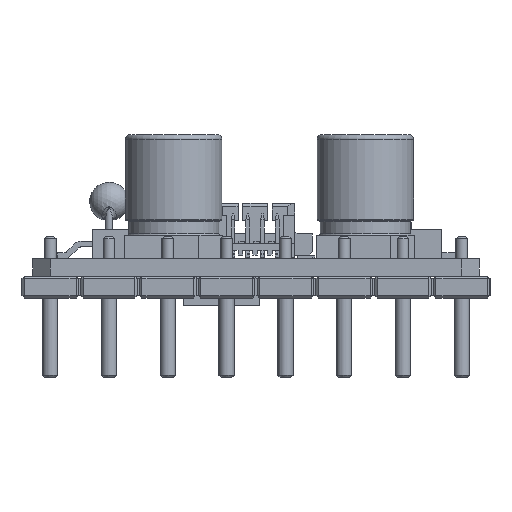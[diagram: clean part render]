
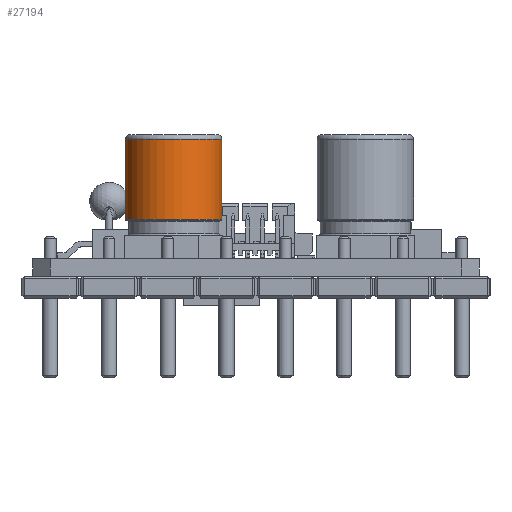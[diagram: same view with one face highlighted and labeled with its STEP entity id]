
A CAD part, left-side view. The second image highlights one B-rep face of the part: STEP entity #27194.
In plain terms, the highlighted cylindrical face has radius 4.1 mm (diameter 8.2 mm), a full revolution.
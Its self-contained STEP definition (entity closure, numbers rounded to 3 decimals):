
#23972=CYLINDRICAL_SURFACE('',#61399,4.1);
#25096=CIRCLE('',#61397,4.1);
#25097=CIRCLE('',#61398,4.1);
#27194=ADVANCED_FACE('',(#28345,#28346),#23972,.T.);
#28345=FACE_BOUND('',#30696,.T.);
#28346=FACE_BOUND('',#30697,.T.);
#30696=EDGE_LOOP('',(#42462));
#30697=EDGE_LOOP('',(#42463));
#42462=ORIENTED_EDGE('',*,*,#56592,.T.);
#42463=ORIENTED_EDGE('',*,*,#56593,.T.);
#49958=VERTEX_POINT('',#87889);
#49959=VERTEX_POINT('',#87891);
#56592=EDGE_CURVE('',#49958,#49958,#25096,.T.);
#56593=EDGE_CURVE('',#49959,#49959,#25097,.T.);
#61397=AXIS2_PLACEMENT_3D('',#87888,#72785,#72786);
#61398=AXIS2_PLACEMENT_3D('',#87890,#72787,#72788);
#61399=AXIS2_PLACEMENT_3D('',#87892,#72789,#72790);
#72785=DIRECTION('',(0.,0.,-1.));
#72786=DIRECTION('',(-1.,0.,0.));
#72787=DIRECTION('',(0.,0.,1.));
#72788=DIRECTION('',(1.,0.,0.));
#72789=DIRECTION('',(0.,0.,1.));
#72790=DIRECTION('',(-1.,0.,0.));
#87888=CARTESIAN_POINT('',(-18.1,7.,10.15));
#87889=CARTESIAN_POINT('',(-22.2,7.,10.15));
#87890=CARTESIAN_POINT('',(-18.1,7.,3.35));
#87891=CARTESIAN_POINT('',(-14.,7.,3.35));
#87892=CARTESIAN_POINT('',(-18.1,7.,3.25));
